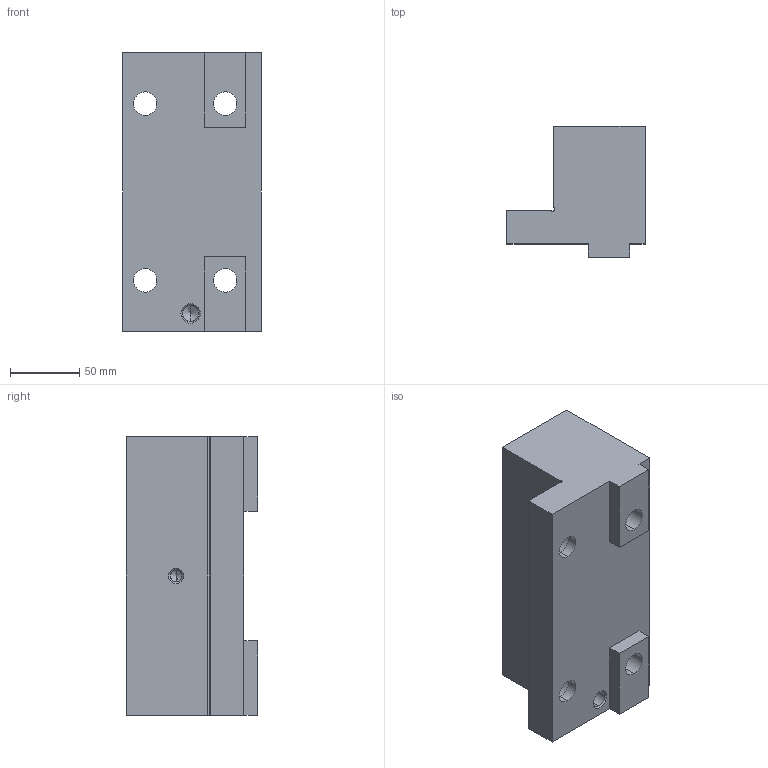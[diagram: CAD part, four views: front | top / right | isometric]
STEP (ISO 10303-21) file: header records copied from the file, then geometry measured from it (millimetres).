
FILE_DESCRIPTION (( 'STEP AP203' ), '1' );
FILE_NAME ('6921694012240.STEP', '2008-12-15T09:22:13', ( ' ' ), ( '' ), 'SwSTEP 2.0', 'SolidWorks 2008', '' );
FILE_SCHEMA (( 'CONFIG_CONTROL_DESIGN' ));
Length unit declared in the file: millimetre
Products named in the file (2): 6921694012240_Kundenmodell; 6921694012240
Assembly tree (1 placements, depth 2):
  6921694012240
    6921694012240_Kundenmodell
Bounding box: 100 x 95 x 202 mm (x, y, z)
Volume: 1249889.4 mm3; surface area: 105883.4 mm2
Topology: 1 solids, 1 shells, 61 faces, 150 edges, 93 vertices
Faces by surface type: cylinder 26, plane 23, cone 12
Entity records: 1976 total; most frequent: DIRECTION 332, CARTESIAN_POINT 302, ORIENTED_EDGE 288, EDGE_CURVE 144, AXIS2_PLACEMENT_3D 123, VERTEX_POINT 93, VECTOR 86, LINE 86
